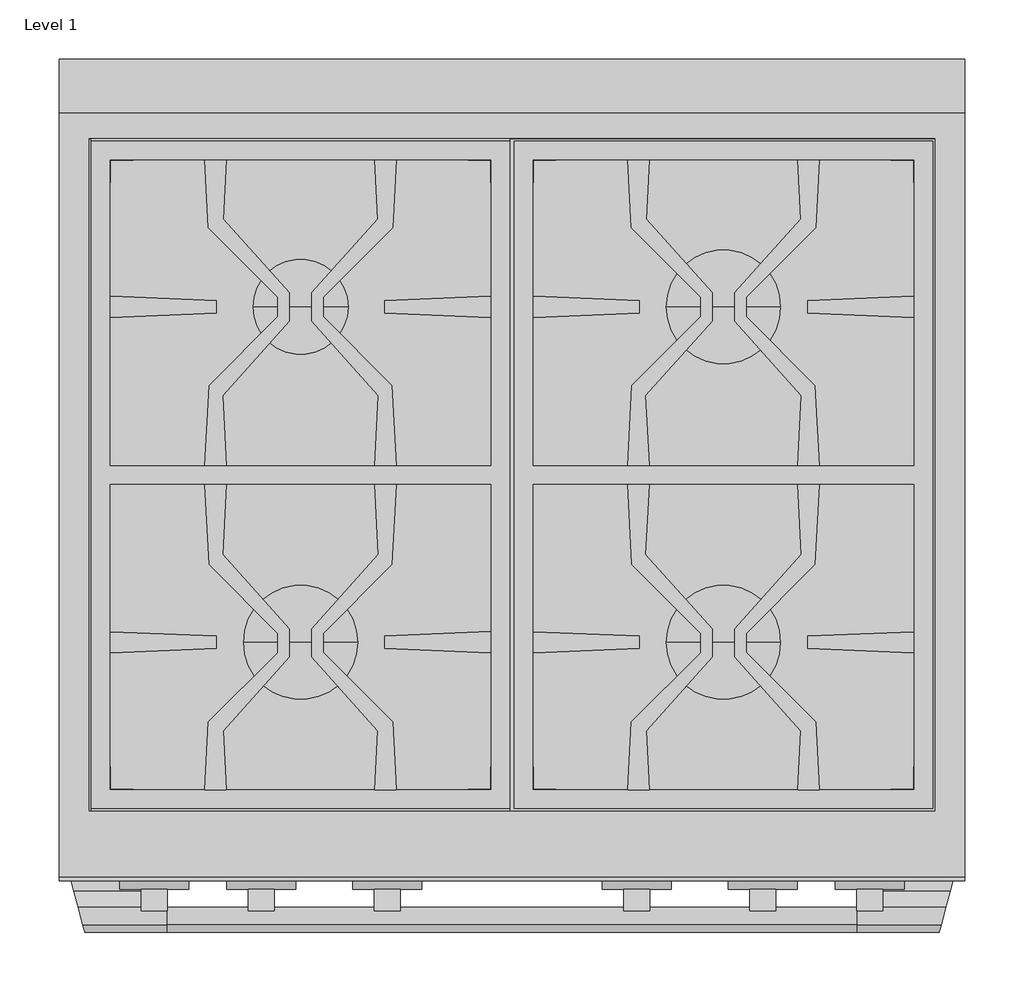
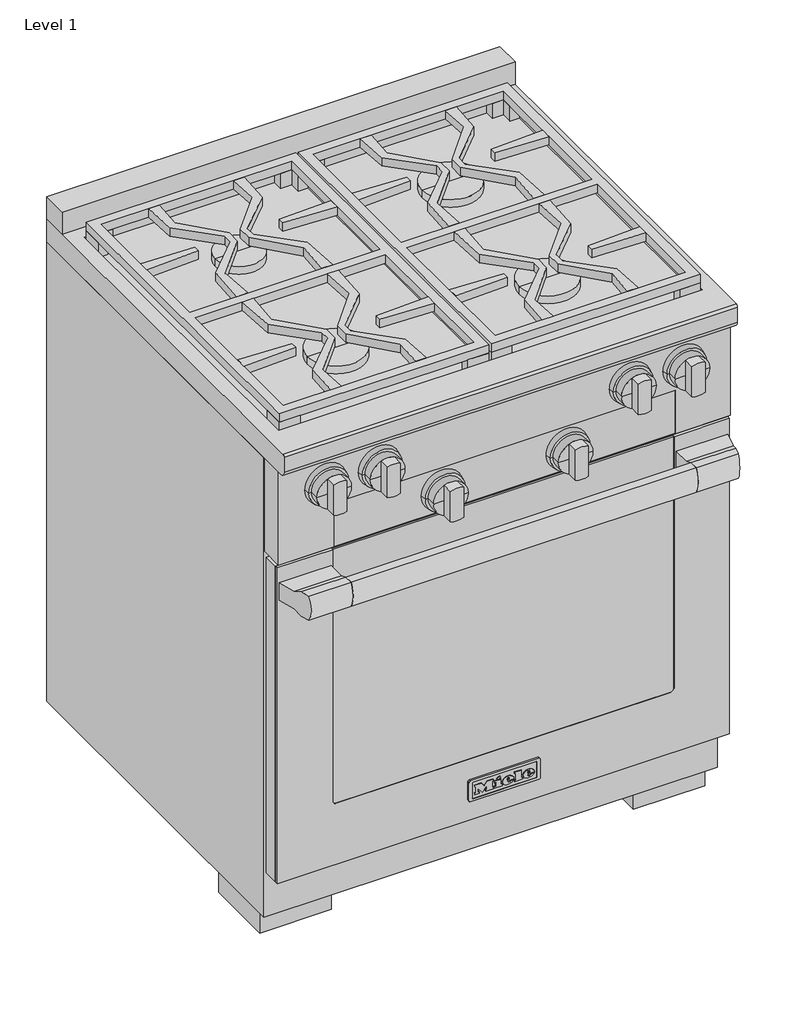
# One storey: 1 proxy.
"""IFC4 building model written with IfcOpenShell, lengths in millimetres."""

from ifc_helpers import new_model, si_unit, origin, place, context, project, spatial, transform, mapped, element, save
from components import specialty_equipment_d9d770ca, specialty_equipment_f5dd6db6

model = new_model("IFC4")

# Units and contexts
model_context = context("Model", 3, world=origin())
ifc_project = project(units=[si_unit("LENGTHUNIT", "METRE", prefix="MILLI")], contexts=[model_context])

# Site, building, storey
site = spatial("IfcSite", under=ifc_project)
building = spatial("IfcBuilding", under=site)
storey = spatial("IfcBuildingStorey", under=building, Name="Level 1", Elevation=0.0)

# Proxy
placement = place(None, origin())
specialty_equipment_shape = specialty_equipment_d9d770ca(model_context)
specialty_equipment_2_shape = specialty_equipment_f5dd6db6(model_context)
element("IfcBuildingElementProxy", 1, Name="09810020_USA_HR1124G_EDST-CLST : 25112451_USA_9810020_HR1124G_EDST-CLST", ObjectType="09810020_USA_HR1124G_EDST-CLST : 25112451_USA_9810020_HR1124G_EDST-CLST", at=placement, inside=storey, context=model_context, shape_type="MappedRepresentation", body=[
    mapped(specialty_equipment_shape, transform((0.0, 0.0, 0.0), x_axis=(1.0, 0.0, 0.0), y_axis=(0.0, 1.0, 0.0), z_axis=(0.0, 0.0, 1.0))),
    mapped(specialty_equipment_2_shape, transform((0.0, 0.0, 0.0), x_axis=(1.0, 0.0, 0.0), y_axis=(0.0, 1.0, 0.0), z_axis=(0.0, 0.0, 1.0))),
])

save(model, "model.ifc")
